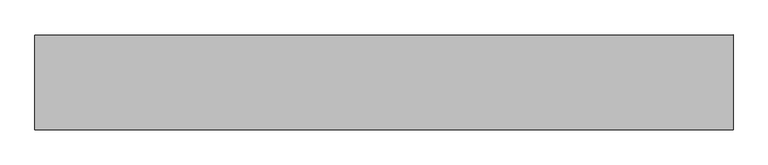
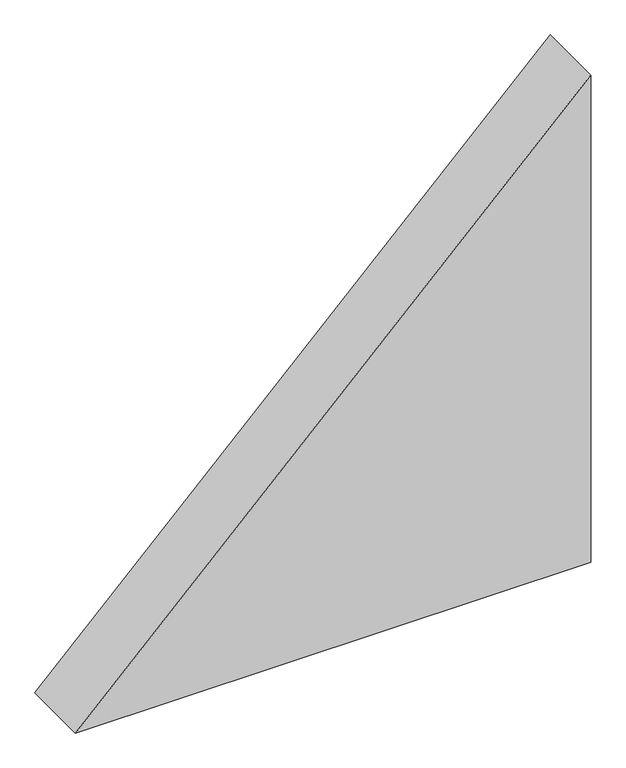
"""IFC4 building model written with IfcOpenShell, lengths in millimetres: proxy geometry, 常规模型 1 : 常规模型 1."""

from ifc_helpers import new_model, si_unit, frame, origin, place, context, project, spatial, polyline, outline, extrude, source, transform, mapped, element, save


def generic_models_6ff17f01(model_context):
    return source(origin(), model_context, "Body", "SweptSolid", [
        extrude(outline(polyline([(1838.4776311, 4431.0152317), (0.0, 2592.5376006), (0.0, 4431.0152317), (1838.4776311, 4431.0152317)])), frame((0.0, 602.7801219, 0.0), z_axis=(0.0, 1.0, 0.0), x_axis=(0.0, 0.0, 1.0)), (0.0, 0.0, 1.0), 250.0),
    ])


if __name__ == "__main__":
    model = new_model("IFC4")
    model_context = context("Model", 3, world=origin())
    ifc_project = project(units=[si_unit("LENGTHUNIT", "METRE", prefix="MILLI")], contexts=[model_context])
    site = spatial("IfcSite", under=ifc_project)
    building = spatial("IfcBuilding", under=site)
    placement = place(None, origin())
    generic_models_shape = generic_models_6ff17f01(model_context)
    element("IfcBuildingElementProxy", 1, Name="常规模型 1 : 常规模型 1", ObjectType="常规模型 1 : 常规模型 1", at=placement, inside=building, context=model_context, shape_type="MappedRepresentation", body=[
        mapped(generic_models_shape, transform((0.0, 0.0, 0.0), x_axis=(1.0, 0.0, 0.0), y_axis=(0.0, 1.0, 0.0), z_axis=(0.0, 0.0, 1.0))),
    ])
    save(model, "model.ifc")
